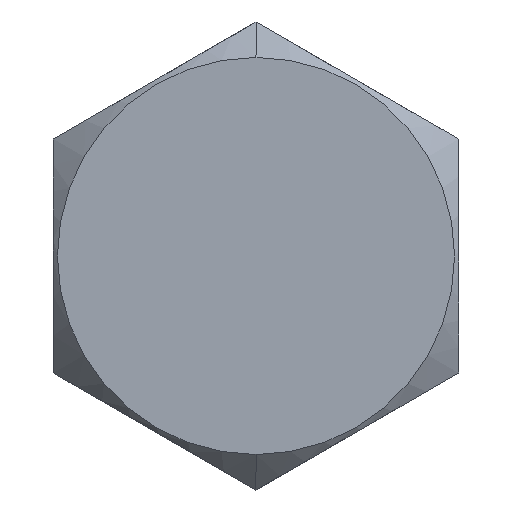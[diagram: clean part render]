
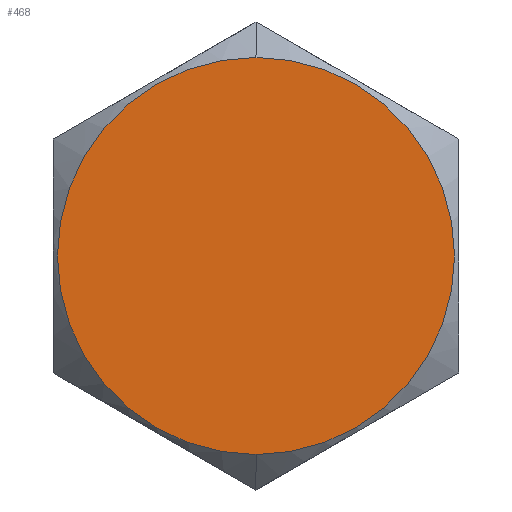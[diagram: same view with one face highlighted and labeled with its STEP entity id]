
A CAD part, left-side view. The second image highlights one B-rep face of the part: STEP entity #468.
In plain terms, the highlighted planar face has unit normal (-1, 0, 0).
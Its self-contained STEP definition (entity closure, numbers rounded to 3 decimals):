
#24 = DIRECTION ( 'NONE',  ( 1., 0., 0. ) ) ;
#89 = DIRECTION ( 'NONE',  ( 0., 0., -1. ) ) ;
#107 = AXIS2_PLACEMENT_3D ( 'NONE', #204, #554, #316 ) ;
#146 = CARTESIAN_POINT ( 'NONE',  ( 0., 0., 7.838 ) ) ;
#153 = EDGE_CURVE ( 'NONE', #787, #548, #408, .T. ) ;
#181 = EDGE_CURVE ( 'NONE', #548, #787, #476, .T. ) ;
#204 = CARTESIAN_POINT ( 'NONE',  ( 0., 0., 0. ) ) ;
#288 = CARTESIAN_POINT ( 'NONE',  ( 0., 0., -7.838 ) ) ;
#316 = DIRECTION ( 'NONE',  ( 0., 0., -1. ) ) ;
#317 = ORIENTED_EDGE ( 'NONE', *, *, #153, .F. ) ;
#356 = ORIENTED_EDGE ( 'NONE', *, *, #181, .F. ) ;
#376 = FACE_OUTER_BOUND ( 'NONE', #721, .T. ) ;
#408 = CIRCLE ( 'NONE', #619, 7.838 ) ;
#457 = DIRECTION ( 'NONE',  ( 0., 0., -1. ) ) ;
#468 = ADVANCED_FACE ( 'NONE', ( #376 ), #631, .F. ) ;
#476 = CIRCLE ( 'NONE', #583, 7.838 ) ;
#548 = VERTEX_POINT ( 'NONE', #146 ) ;
#554 = DIRECTION ( 'NONE',  ( 1., 0., 0. ) ) ;
#583 = AXIS2_PLACEMENT_3D ( 'NONE', #657, #591, #89 ) ;
#591 = DIRECTION ( 'NONE',  ( 1., 0., 0. ) ) ;
#619 = AXIS2_PLACEMENT_3D ( 'NONE', #661, #24, #457 ) ;
#631 = PLANE ( 'NONE',  #107 ) ;
#657 = CARTESIAN_POINT ( 'NONE',  ( 0., 0., 0. ) ) ;
#661 = CARTESIAN_POINT ( 'NONE',  ( 0., 0., 0. ) ) ;
#721 = EDGE_LOOP ( 'NONE', ( #317, #356 ) ) ;
#787 = VERTEX_POINT ( 'NONE', #288 ) ;
